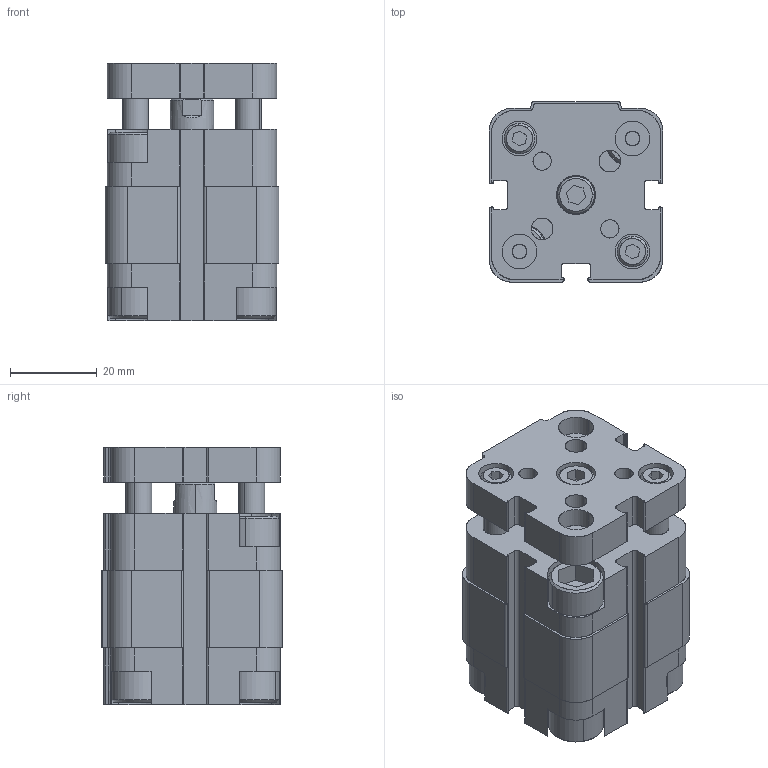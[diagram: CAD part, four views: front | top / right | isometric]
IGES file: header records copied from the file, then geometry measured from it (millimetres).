
Start section: SolidWorks IGES file using analytic representation for surfaces
Global section: file name: K:\Disegni Esecutivi\Cilindri\2_DISEGNI_cilindri_in_produzione\5_Cilindri Compatti\complessivicompatti\QFA\QFA025\QFA025PIENO\QFA0250005A.igs; native system: SolidWorks 2011; preprocessor: SolidWorks 2011; author: Cad01; date: 111017.103846; units: millimetre
Bounding box: 40 x 41.5 x 59.2 mm (x, y, z)
Surface area: 20914.2 mm2 (no closed solid volume)
Topology: 0 solids, 0 shells, 410 faces, 4993 edges, 4993 vertices
Faces by surface type: bspline 210, revolution 200
